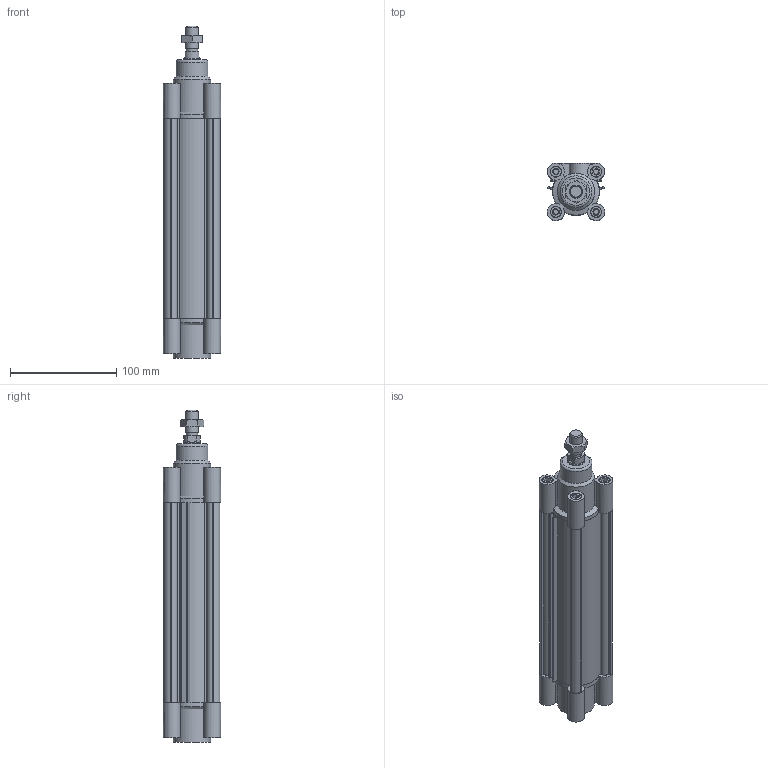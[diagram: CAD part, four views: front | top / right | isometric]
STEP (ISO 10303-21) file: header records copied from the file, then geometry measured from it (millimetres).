
FILE_DESCRIPTION((''),'2;1');
FILE_NAME('I:\Area Tecnica\Disegni\VARIE-3D\Componenti\ECOLIGHT\139#.##_0000_01\stp\139#_40_0150_01.iam.stp','2012-01-28T07:59:06',(''),(''),'Autodesk Inventor 2012','Autodesk Inventor 2012','');
FILE_SCHEMA(('AUTOMOTIVE_DESIGN { 1 0 10303 214 1 1 1 1 }'));
Length unit declared in the file: millimetre
Products named in the file (6): 139#_40_0150_01; CPL040_004-150; CPL040-001-01; CPL040-002-01; CPL_40_0150; 1320_40_18F
Assembly tree (5 placements, depth 2):
  139#_40_0150_01
    CPL040_004-150
    CPL040-001-01
    CPL040-002-01
    CPL_40_0150
    1320_40_18F
Bounding box: 54 x 54 x 313 mm (x, y, z)
Volume: 355926.1 mm3; surface area: 157673.9 mm2
Topology: 5 solids, 5 shells, 316 faces, 788 edges, 522 vertices
Faces by surface type: plane 200, cylinder 91, cone 24, torus 1
Full cylindrical faces by diameter (mm): 5 x8, 5.5 x4, 8 x2, 10 x8, 10.5 x9, 10.8 x1, 11.6 x2, 12 x1, 15.5 x1, 16 x2, 30 x1, 35 x2, 40 x4
Entity records: 9416 total; most frequent: CARTESIAN_POINT 1761, DIRECTION 1538, ORIENTED_EDGE 1442, EDGE_CURVE 721, AXIS2_PLACEMENT_3D 544, VERTEX_POINT 507, VECTOR 450, LINE 450
